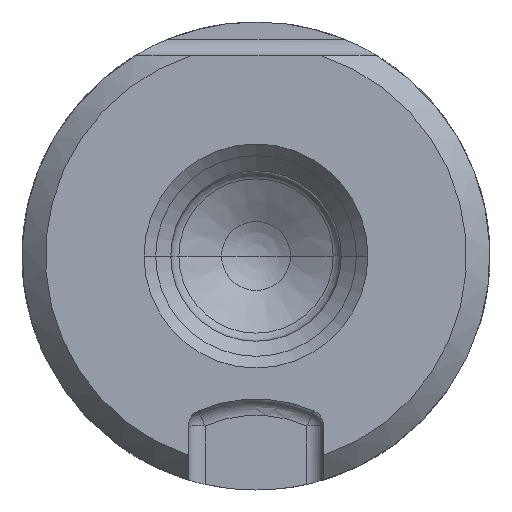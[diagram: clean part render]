
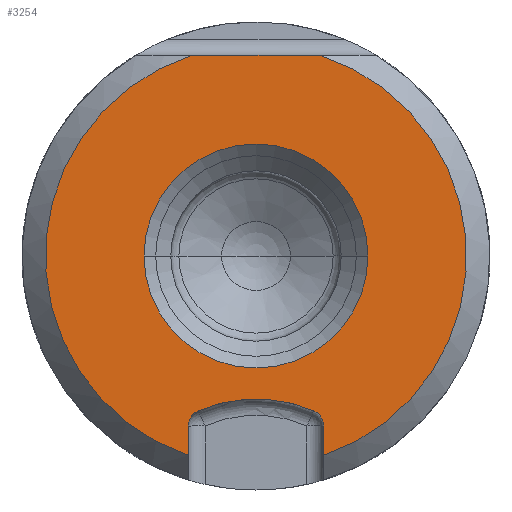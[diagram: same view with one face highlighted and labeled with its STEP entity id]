
A CAD part, left-side view. The second image highlights one B-rep face of the part: STEP entity #3254.
In plain terms, the highlighted planar face has unit normal (-1, 0, 0).
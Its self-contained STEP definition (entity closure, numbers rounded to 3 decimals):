
#808=DIRECTION('',(0.,1.,0.));
#809=VECTOR('',#808,3.842);
#810=CARTESIAN_POINT('',(-22.,5.079,6.));
#811=LINE('',#810,#809);
#812=CARTESIAN_POINT('',(-22.,7.,0.));
#813=DIRECTION('',(1.,0.,0.));
#814=DIRECTION('',(0.,-0.305,0.952));
#815=AXIS2_PLACEMENT_3D('',#812,#813,#814);
#817=CARTESIAN_POINT('',(-22.,5.475,-5.09));
#818=DIRECTION('',(-1.,0.,0.));
#819=DIRECTION('',(0.,-1.,0.));
#820=AXIS2_PLACEMENT_3D('',#817,#818,#819);
#822=CARTESIAN_POINT('',(-22.,7.,-8.626));
#823=DIRECTION('',(-1.,0.,0.));
#824=DIRECTION('',(0.,-0.396,0.918));
#825=AXIS2_PLACEMENT_3D('',#822,#823,#824);
#827=CARTESIAN_POINT('',(-22.,8.525,-5.09));
#828=DIRECTION('',(-1.,0.,0.));
#829=DIRECTION('',(0.,0.396,0.918));
#830=AXIS2_PLACEMENT_3D('',#827,#828,#829);
#832=CARTESIAN_POINT('',(-22.,7.,0.));
#833=DIRECTION('',(1.,0.,0.));
#834=DIRECTION('',(0.,0.321,-0.947));
#835=AXIS2_PLACEMENT_3D('',#832,#833,#834);
#837=CARTESIAN_POINT('',(-22.,7.,0.));
#838=DIRECTION('',(-1.,0.,0.));
#839=DIRECTION('',(0.,1.,0.));
#840=AXIS2_PLACEMENT_3D('',#837,#838,#839);
#842=CARTESIAN_POINT('',(-22.,7.,0.));
#843=DIRECTION('',(-1.,0.,0.));
#844=DIRECTION('',(0.,-1.,0.));
#845=AXIS2_PLACEMENT_3D('',#842,#843,#844);
#859=DIRECTION('',(0.,0.,-1.));
#860=VECTOR('',#859,0.876);
#861=CARTESIAN_POINT('',(-22.,4.975,-5.09));
#862=LINE('',#861,#860);
#907=DIRECTION('',(0.,0.,1.));
#908=VECTOR('',#907,0.876);
#909=CARTESIAN_POINT('',(-22.,9.025,-5.966));
#910=LINE('',#909,#908);
#1714=CARTESIAN_POINT('',(-22.,5.079,6.));
#1715=CARTESIAN_POINT('',(-22.,8.921,6.));
#1716=VERTEX_POINT('',#1714);
#1717=VERTEX_POINT('',#1715);
#1718=CARTESIAN_POINT('',(-22.,4.975,-5.966));
#1719=VERTEX_POINT('',#1718);
#1720=CARTESIAN_POINT('',(-22.,4.975,-5.09));
#1721=VERTEX_POINT('',#1720);
#1722=CARTESIAN_POINT('',(-22.,5.277,-4.631));
#1723=VERTEX_POINT('',#1722);
#1724=CARTESIAN_POINT('',(-22.,8.723,-4.631));
#1725=VERTEX_POINT('',#1724);
#1726=CARTESIAN_POINT('',(-22.,9.025,-5.09));
#1727=VERTEX_POINT('',#1726);
#1728=CARTESIAN_POINT('',(-22.,9.025,-5.966));
#1729=VERTEX_POINT('',#1728);
#1730=CARTESIAN_POINT('',(-22.,10.35,0.));
#1731=CARTESIAN_POINT('',(-22.,3.65,0.));
#1732=VERTEX_POINT('',#1730);
#1733=VERTEX_POINT('',#1731);
#3226=CARTESIAN_POINT('',(-22.,14.25,-7.25));
#3227=DIRECTION('',(-1.,0.,0.));
#3228=DIRECTION('',(0.,-1.,0.));
#3229=AXIS2_PLACEMENT_3D('',#3226,#3227,#3228);
#3230=PLANE('',#3229);
#3231=ORIENTED_EDGE('',*,*,#3214,.F.);
#3233=ORIENTED_EDGE('',*,*,#3232,.T.);
#3235=ORIENTED_EDGE('',*,*,#3234,.F.);
#3237=ORIENTED_EDGE('',*,*,#3236,.T.);
#3239=ORIENTED_EDGE('',*,*,#3238,.T.);
#3241=ORIENTED_EDGE('',*,*,#3240,.T.);
#3243=ORIENTED_EDGE('',*,*,#3242,.F.);
#3245=ORIENTED_EDGE('',*,*,#3244,.T.);
#3246=EDGE_LOOP('',(#3231,#3233,#3235,#3237,#3239,#3241,#3243,#3245));
#3247=FACE_OUTER_BOUND('',#3246,.F.);
#3249=ORIENTED_EDGE('',*,*,#3248,.T.);
#3251=ORIENTED_EDGE('',*,*,#3250,.T.);
#3252=EDGE_LOOP('',(#3249,#3251));
#3253=FACE_BOUND('',#3252,.F.);
#3254=ADVANCED_FACE('',(#3247,#3253),#3230,.T.);
#816=CIRCLE('',#815,6.3);
#821=CIRCLE('',#820,0.5);
#826=CIRCLE('',#825,4.351);
#831=CIRCLE('',#830,0.5);
#836=CIRCLE('',#835,6.3);
#841=CIRCLE('',#840,3.35);
#846=CIRCLE('',#845,3.35);
#3214=EDGE_CURVE('',#1716,#1717,#811,.T.);
#3232=EDGE_CURVE('',#1716,#1719,#816,.T.);
#3234=EDGE_CURVE('',#1721,#1719,#862,.T.);
#3236=EDGE_CURVE('',#1721,#1723,#821,.T.);
#3238=EDGE_CURVE('',#1723,#1725,#826,.T.);
#3240=EDGE_CURVE('',#1725,#1727,#831,.T.);
#3242=EDGE_CURVE('',#1729,#1727,#910,.T.);
#3244=EDGE_CURVE('',#1729,#1717,#836,.T.);
#3248=EDGE_CURVE('',#1732,#1733,#841,.T.);
#3250=EDGE_CURVE('',#1733,#1732,#846,.T.);
